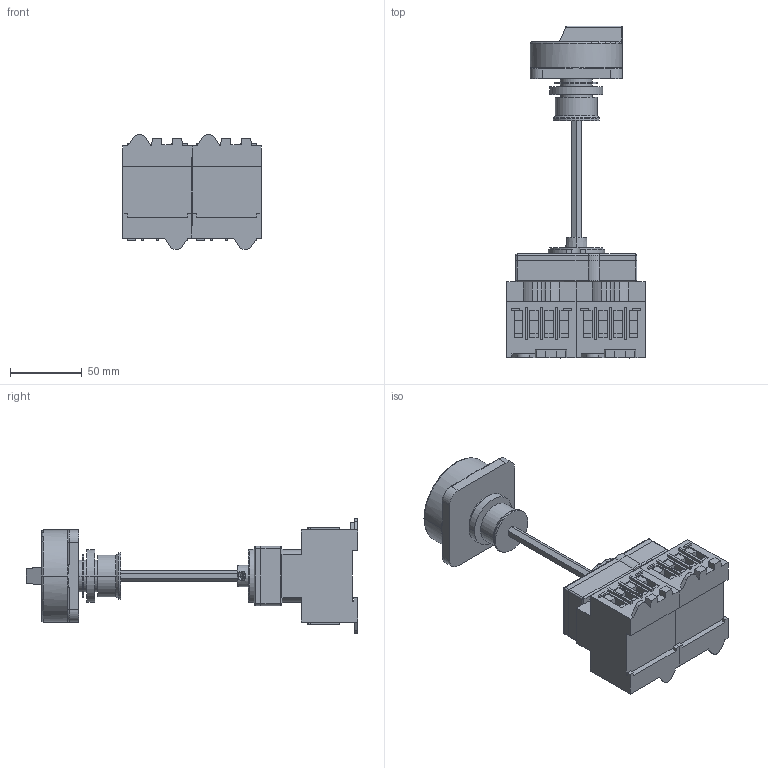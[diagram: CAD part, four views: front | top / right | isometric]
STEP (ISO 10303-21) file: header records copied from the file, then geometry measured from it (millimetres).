
FILE_DESCRIPTION (( 'STEP AP203' ), '1' );
FILE_NAME ('LTS20_25_32_40 VZVH4 A6.STEP', '2014-03-24T10:51:41', ( '' ), ( '' ), 'SwSTEP 2.0', 'SolidWorks 2014', '' );
FILE_SCHEMA (( 'CONFIG_CONTROL_DESIGN' ));
Length unit declared in the file: millimetre
Products named in the file (9): Achse TK-LT_100_300; LTS32 VZV A4; HPT I Umschaltwerk LT; TK2Z H4; LTS20_25_32_40 VZVH4 A6; HTP Umschaltwerk LT; Zwischenring; HPT II Umschaltwerk LT; 8184_7 CP8184-1
Assembly tree (9 placements, depth 3):
  LTS20_25_32_40 VZVH4 A6
    LTS32 VZV A4  x2
    HTP Umschaltwerk LT
      HPT I Umschaltwerk LT
      HPT II Umschaltwerk LT
    Zwischenring
    8184_7 CP8184-1
    Achse TK-LT_100_300
    TK2Z H4
Bounding box: 96 x 230.7 x 80 mm (x, y, z)
Volume: 415333.5 mm3; surface area: 98538.3 mm2
Topology: 8 solids, 8 shells, 664 faces, 1795 edges, 1157 vertices
Faces by surface type: plane 470, cylinder 130, cone 21, bspline 18, torus 17, sphere 8
Entity records: 15174 total; most frequent: CARTESIAN_POINT 3336, ORIENTED_EDGE 2300, DIRECTION 2227, EDGE_CURVE 1150, LINE 761, VECTOR 761, VERTEX_POINT 739, AXIS2_PLACEMENT_3D 733
